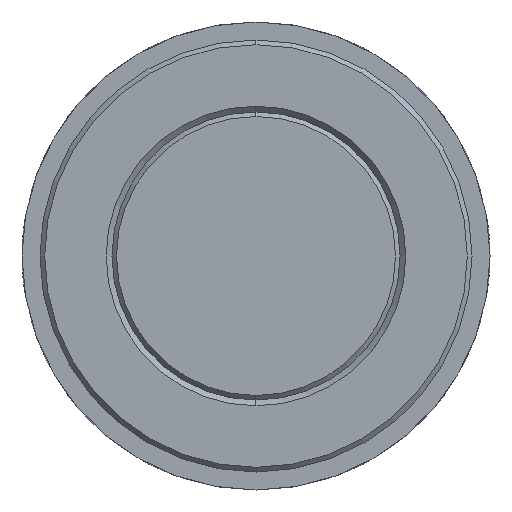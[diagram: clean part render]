
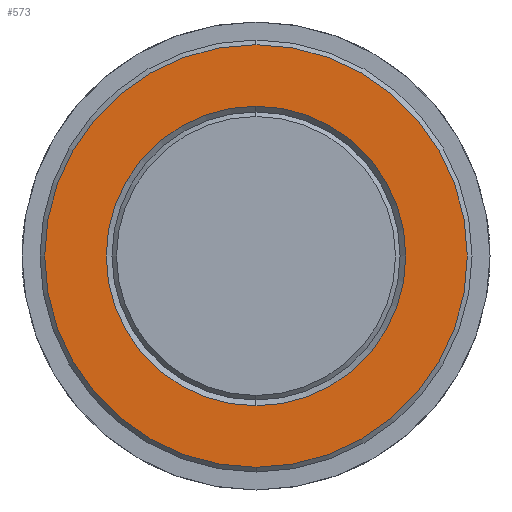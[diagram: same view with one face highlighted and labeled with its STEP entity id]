
A CAD part, left-side view. The second image highlights one B-rep face of the part: STEP entity #573.
In plain terms, the highlighted planar face has unit normal (-1, 0, 0).
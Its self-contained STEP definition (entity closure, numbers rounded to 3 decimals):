
#317=EDGE_CURVE('',#399,#439,#718,.T.);
#395=VERTEX_POINT('',#807);
#399=VERTEX_POINT('',#811);
#439=VERTEX_POINT('',#851);
#477=VERTEX_POINT('',#895);
#491=EDGE_CURVE('',#439,#399,#915,.T.);
#513=EDGE_CURVE('',#395,#477,#939,.T.);
#529=EDGE_CURVE('',#477,#395,#957,.T.);
#573=ADVANCED_FACE('',(#1007,#1008),#1009,.T.);
#718=CIRCLE('',#1214,20.8);
#807=CARTESIAN_POINT('',(25.0,0.,-29.35));
#811=CARTESIAN_POINT('',(25.0,0.0,20.8));
#851=CARTESIAN_POINT('',(25.0,0.,-20.8));
#895=CARTESIAN_POINT('',(25.0,0.0,29.35));
#915=CIRCLE('',#1496,20.8);
#939=CIRCLE('',#1545,29.35);
#957=CIRCLE('',#1576,29.35);
#1007=FACE_BOUND('',#1663,.T.);
#1008=FACE_OUTER_BOUND('',#1664,.T.);
#1009=PLANE('',#1665);
#1214=AXIS2_PLACEMENT_3D('',#1801,#1802,#1803);
#1496=AXIS2_PLACEMENT_3D('',#2039,#2040,#2041);
#1545=AXIS2_PLACEMENT_3D('',#2067,#2068,#2069);
#1576=AXIS2_PLACEMENT_3D('',#2093,#2094,#2095);
#1663=EDGE_LOOP('',(#2157,#2158));
#1664=EDGE_LOOP('',(#2159,#2160));
#1665=AXIS2_PLACEMENT_3D('',#2161,#2162,#2163);
#1801=CARTESIAN_POINT('',(25.0,0.0,0.0));
#1802=DIRECTION('',(1.0,0.0,0.));
#1803=DIRECTION('',(0.,0.0,1.0));
#2039=CARTESIAN_POINT('',(25.0,0.0,0.0));
#2040=DIRECTION('',(1.0,0.0,0.));
#2041=DIRECTION('',(0.,0.0,1.0));
#2067=CARTESIAN_POINT('',(25.0,0.0,0.0));
#2068=DIRECTION('',(1.0,0.0,-0.0));
#2069=DIRECTION('',(0.0,0.0,1.0));
#2093=CARTESIAN_POINT('',(25.0,0.0,0.0));
#2094=DIRECTION('',(1.0,0.0,-0.0));
#2095=DIRECTION('',(0.0,0.0,1.0));
#2157=ORIENTED_EDGE('',*,*,#317,.T.);
#2158=ORIENTED_EDGE('',*,*,#491,.T.);
#2159=ORIENTED_EDGE('',*,*,#529,.F.);
#2160=ORIENTED_EDGE('',*,*,#513,.F.);
#2161=CARTESIAN_POINT('',(25.0,0.0,14.675));
#2162=DIRECTION('',(-1.0,-0.0,0.));
#2163=DIRECTION('',(0.,0.0,-1.0));
